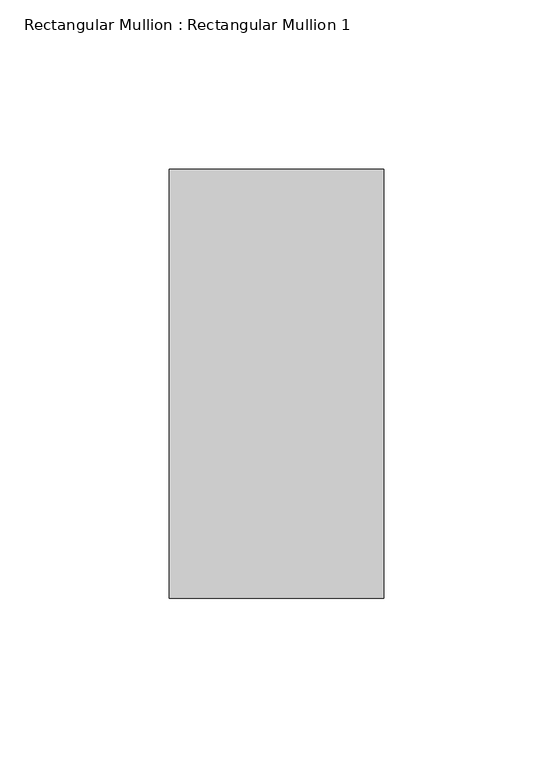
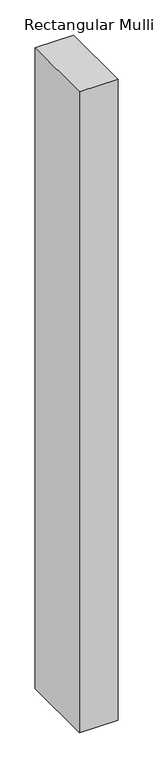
"""IFC4 building model written with IfcOpenShell, lengths in millimetres: member geometry, Rectangular Mullion : Rectangular Mullion 1."""

from ifc_helpers import new_model, si_unit, frame, origin, place, context, project, spatial, polyline, outline, extrude, source, transform, mapped, element, save


def rectangular_mullion_rectangular_mullion_1_31188fa1(model_context):
    return source(origin(), model_context, "Body", "SweptSolid", [
        extrude(outline(polyline([(0.0, 63.5), (0.0, -63.5), (-63.5, -63.5), (-63.5, 63.5), (0.0, 63.5)])), frame((0.0, 0.0, -1116.9312347), z_axis=(0.0, 0.0, 1.0), x_axis=(1.0, 0.0, 0.0)), (0.0, 0.0, 1.0), 1116.9312347),
    ])


if __name__ == "__main__":
    model = new_model("IFC4")
    model_context = context("Model", 3, world=origin())
    ifc_project = project(units=[si_unit("LENGTHUNIT", "METRE", prefix="MILLI")], contexts=[model_context])
    site = spatial("IfcSite", under=ifc_project)
    building = spatial("IfcBuilding", under=site)
    placement = place(None, origin())
    rectangular_mullion_rectangular_mullion_1_shape = rectangular_mullion_rectangular_mullion_1_31188fa1(model_context)
    element("IfcMember", 1, ObjectType="Rectangular Mullion : Rectangular Mullion 1", at=placement, inside=building, context=model_context, shape_type="MappedRepresentation", body=[
        mapped(rectangular_mullion_rectangular_mullion_1_shape, transform((0.0, 0.0, 0.0), x_axis=(1.0, 0.0, 0.0), y_axis=(0.0, 1.0, 0.0), z_axis=(0.0, 0.0, 1.0))),
    ])
    save(model, "model.ifc")
